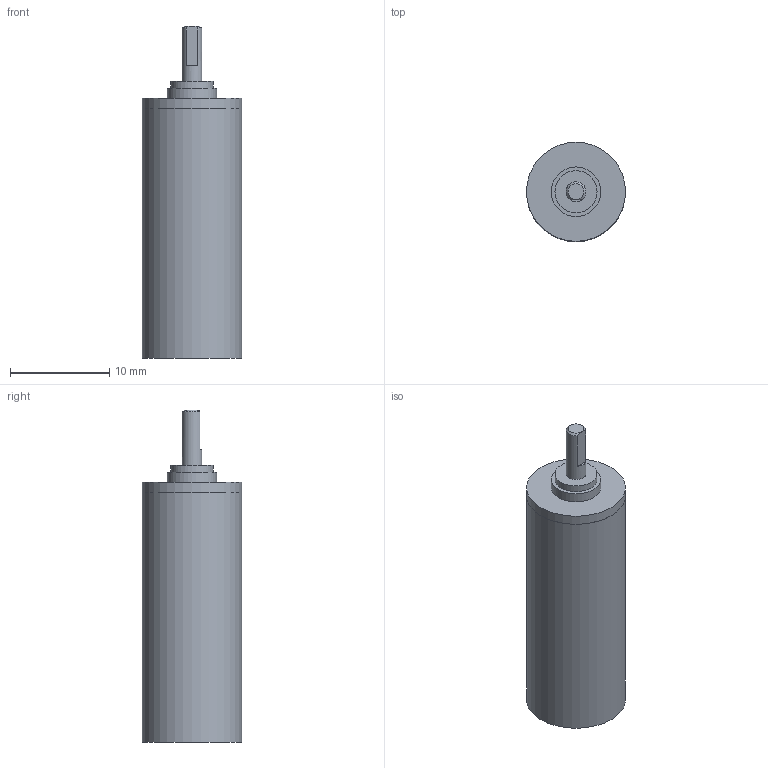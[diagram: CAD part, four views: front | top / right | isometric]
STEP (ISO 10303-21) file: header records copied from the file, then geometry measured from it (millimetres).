
FILE_DESCRIPTION(/* description */ (''),/* implementation_level */ '2;1');
FILE_NAME(/* name */ '10-1K_6.stp',/* time_stamp */ '2016-08-24T08:34:05+02:00',/* author */ ('DR. FRITZ FAULHABER GmbH & Co. KG'),/* organization */ ('DR. FRITZ FAULHABER GmbH & Co. KG'),/* preprocessor_version */ 'ST-DEVELOPER v16',/* originating_system */ 'SIEMENS PLM Software NX 10.0',/* authorisation */ '');
FILE_SCHEMA (('AUTOMOTIVE_DESIGN { 1 0 10303 214 3 1 1 1 }'));
Length unit declared in the file: millimetre
Products named in the file (1): H00000418_A
Bounding box: 10 x 10 x 33.5 mm (x, y, z)
Volume: 2016.5 mm3; surface area: 1110.2 mm2
Topology: 1 solids, 1 shells, 24 faces, 42 edges, 28 vertices
Faces by surface type: plane 12, cylinder 10, cone 2
Full cylindrical faces by diameter (mm): 2 x1, 3.12 x1, 3.32 x1, 4.25 x1, 4.959 x1, 5 x1, 6 x1, 9.99 x1, 10 x2
Entity records: 532 total; most frequent: DIRECTION 97, CARTESIAN_POINT 91, ORIENTED_EDGE 54, AXIS2_PLACEMENT_3D 47, EDGE_LOOP 43, FACE_BOUND 38, EDGE_CURVE 27, ADVANCED_FACE 24
